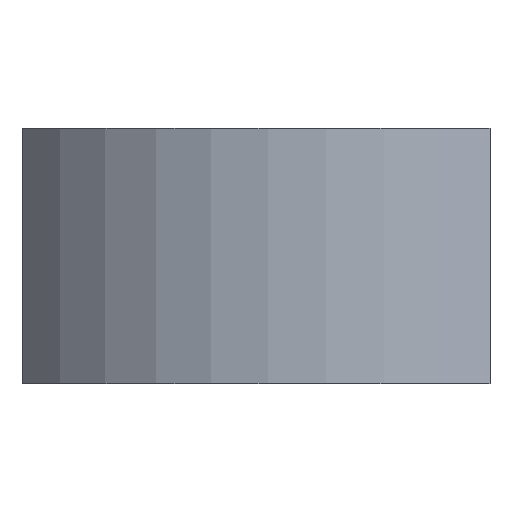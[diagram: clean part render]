
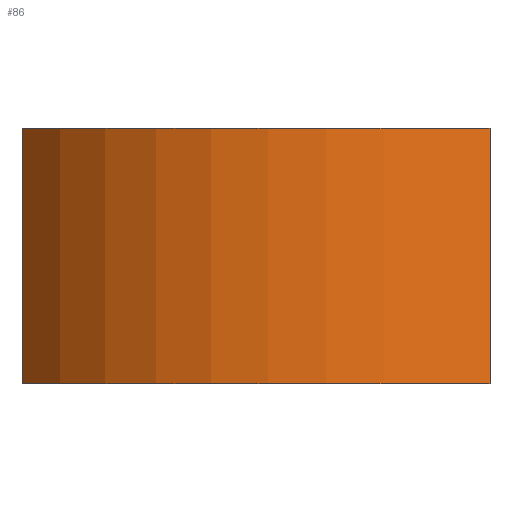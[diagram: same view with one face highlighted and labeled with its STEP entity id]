
A CAD part, left-side view. The second image highlights one B-rep face of the part: STEP entity #86.
In plain terms, the highlighted cylindrical face has radius 16 mm (diameter 32 mm), a partial arc.
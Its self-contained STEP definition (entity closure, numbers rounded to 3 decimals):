
#86 = ADVANCED_FACE( '', ( #142 ), #143, .T. );
#142 = FACE_OUTER_BOUND( '', #229, .T. );
#143 = CYLINDRICAL_SURFACE( '', #230, 16. );
#229 = EDGE_LOOP( '', ( #350, #351, #352, #353 ) );
#230 = AXIS2_PLACEMENT_3D( '', #354, #355, #356 );
#350 = ORIENTED_EDGE( '', *, *, #496, .T. );
#351 = ORIENTED_EDGE( '', *, *, #500, .F. );
#352 = ORIENTED_EDGE( '', *, *, #488, .F. );
#353 = ORIENTED_EDGE( '', *, *, #501, .T. );
#354 = CARTESIAN_POINT( '', ( 0., 0., 6. ) );
#355 = DIRECTION( '', ( 0., 0., 1. ) );
#356 = DIRECTION( '', ( -1., 0., 0. ) );
#488 = EDGE_CURVE( '', #550, #552, #553, .T. );
#496 = EDGE_CURVE( '', #562, #566, #568, .T. );
#500 = EDGE_CURVE( '', #552, #566, #573, .T. );
#501 = EDGE_CURVE( '', #550, #562, #574, .T. );
#550 = VERTEX_POINT( '', #699 );
#552 = VERTEX_POINT( '', #702 );
#553 = CIRCLE( '', #703, 16. );
#562 = VERTEX_POINT( '', #713 );
#566 = VERTEX_POINT( '', #718 );
#568 = CIRCLE( '', #721, 16. );
#573 = LINE( '', #728, #729 );
#574 = LINE( '', #730, #731 );
#699 = CARTESIAN_POINT( '', ( -9.327, 13., 6. ) );
#702 = CARTESIAN_POINT( '', ( -13.229, -9., 6. ) );
#703 = AXIS2_PLACEMENT_3D( '', #825, #826, #827 );
#713 = CARTESIAN_POINT( '', ( -9.327, 13., -6. ) );
#718 = CARTESIAN_POINT( '', ( -13.229, -9., -6. ) );
#721 = AXIS2_PLACEMENT_3D( '', #843, #844, #845 );
#728 = CARTESIAN_POINT( '', ( -13.229, -9., 6. ) );
#729 = VECTOR( '', #851, 1000. );
#730 = CARTESIAN_POINT( '', ( -9.327, 13., 6. ) );
#731 = VECTOR( '', #852, 1000. );
#825 = CARTESIAN_POINT( '', ( 0., 0., 6. ) );
#826 = DIRECTION( '', ( 0., 0., 1. ) );
#827 = DIRECTION( '', ( 1., 0., 0. ) );
#843 = CARTESIAN_POINT( '', ( 0., 0., -6. ) );
#844 = DIRECTION( '', ( 0., 0., 1. ) );
#845 = DIRECTION( '', ( 1., 0., 0. ) );
#851 = DIRECTION( '', ( 0., 0., -1. ) );
#852 = DIRECTION( '', ( 0., 0., -1. ) );
